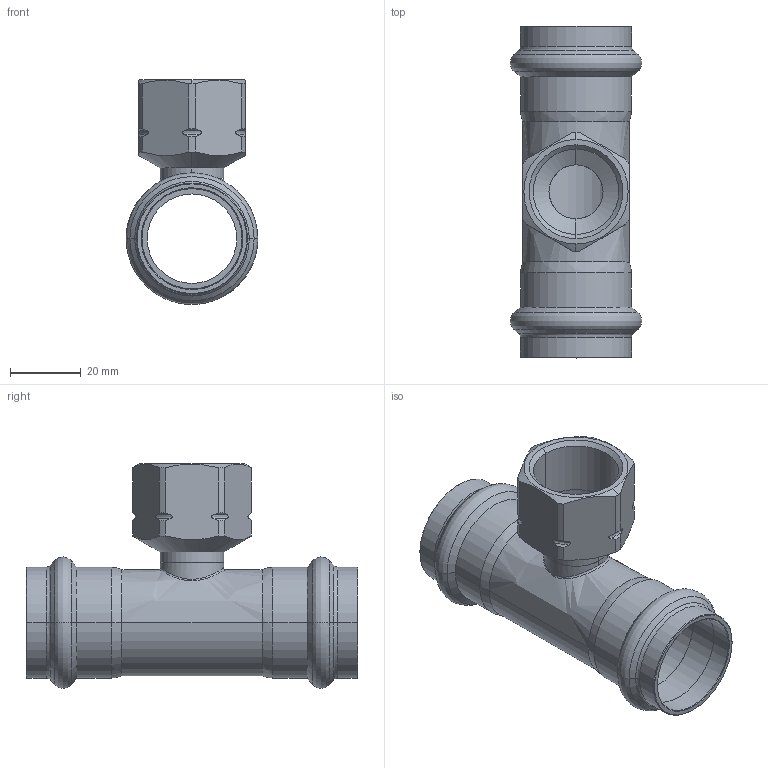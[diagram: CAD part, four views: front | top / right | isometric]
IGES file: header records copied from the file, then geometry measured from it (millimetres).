
Start section: Elysium IGES Interface
Global section: file name: C:\3d modellen sudo\C-Pr VP\SP8130GV\8130GVW283428.igs; native system: CoCreate Modeling 17.00A  17-Jun-2010; preprocessor: CoCreate IGES_3D V2.2; author: Unknown; organization: Unknown; date: 20130212.124941; units: millimetre
Bounding box: 37.2 x 93.81 x 63.59 mm (x, y, z)
Volume: 24403 mm3; surface area: 23844.2 mm2
Topology: 1 solids, 1 shells, 135 faces, 322 edges, 194 vertices
Faces by surface type: bspline 135
